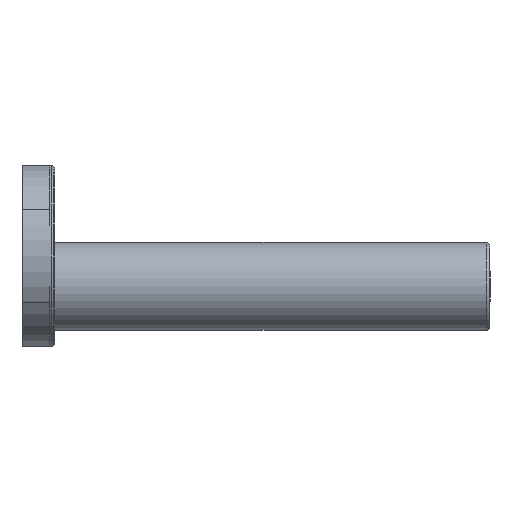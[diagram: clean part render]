
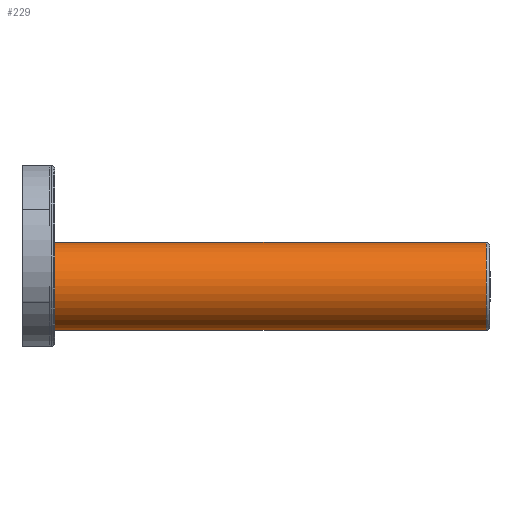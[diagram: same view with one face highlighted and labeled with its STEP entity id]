
A CAD part, left-side view. The second image highlights one B-rep face of the part: STEP entity #229.
In plain terms, the highlighted cylindrical face has radius 12.4 mm (diameter 24.8 mm), a full revolution.
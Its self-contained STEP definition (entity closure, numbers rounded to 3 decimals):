
#97=B_SPLINE_CURVE_WITH_KNOTS('',3,(#4149,#4150,#4151,#4152,#4153,#4154,
#4155,#4156,#4157,#4158,#4159,#4160,#4161,#4162,#4163,#4164,#4165,#4166),
.UNSPECIFIED.,.T.,.F.,(2,2,2,2,2,2,2,2,2,2,2),(-0.125,0.,0.125,0.25,0.375,
0.5,0.625,0.75,0.875,1.,1.125),.UNSPECIFIED.);
#98=B_SPLINE_CURVE_WITH_KNOTS('',3,(#4170,#4171,#4172,#4173,#4174,#4175,
#4176,#4177,#4178,#4179,#4180,#4181,#4182,#4183,#4184,#4185,#4186,#4187,
#4188,#4189,#4190,#4191,#4192,#4193,#4194,#4195),.UNSPECIFIED.,.T.,.F.,(2,
2,2,2,2,2,2,2,2,2,2,2,2,2,2),(-0.063,0.,0.125,0.188,0.25,0.375,
0.438,0.5,0.563,0.625,0.75,0.875,0.938,1.,1.125),.UNSPECIFIED.);
#134=CYLINDRICAL_SURFACE('',#2897,12.4);
#229=ADVANCED_FACE('',(#479,#480,#481,#482),#134,.T.);
#479=FACE_BOUND('',#1157,.T.);
#480=FACE_BOUND('',#1158,.T.);
#481=FACE_BOUND('',#1159,.T.);
#482=FACE_BOUND('',#1160,.T.);
#1157=EDGE_LOOP('',(#1409));
#1158=EDGE_LOOP('',(#1410));
#1159=EDGE_LOOP('',(#1411));
#1160=EDGE_LOOP('',(#1412));
#1409=ORIENTED_EDGE('',*,*,#2360,.T.);
#1410=ORIENTED_EDGE('',*,*,#2361,.F.);
#1411=ORIENTED_EDGE('',*,*,#2362,.F.);
#1412=ORIENTED_EDGE('',*,*,#2363,.F.);
#2094=VERTEX_POINT('',#4148);
#2095=VERTEX_POINT('',#4167);
#2096=VERTEX_POINT('',#4169);
#2097=VERTEX_POINT('',#4196);
#2360=EDGE_CURVE('',#2094,#2094,#2712,.T.);
#2361=EDGE_CURVE('',#2095,#2095,#97,.T.);
#2362=EDGE_CURVE('',#2096,#2096,#2713,.T.);
#2363=EDGE_CURVE('',#2097,#2097,#98,.T.);
#2712=CIRCLE('',#2895,12.4);
#2713=CIRCLE('',#2896,12.4);
#2895=AXIS2_PLACEMENT_3D('',#4147,#3288,#3289);
#2896=AXIS2_PLACEMENT_3D('',#4168,#3290,#3291);
#2897=AXIS2_PLACEMENT_3D('',#4197,#3292,#3293);
#3288=DIRECTION('',(0.,1.,0.));
#3289=DIRECTION('',(0.,0.,1.));
#3290=DIRECTION('',(0.,1.,0.));
#3291=DIRECTION('',(0.,0.,1.));
#3292=DIRECTION('',(0.,-1.,0.));
#3293=DIRECTION('',(0.,0.,-1.));
#4147=CARTESIAN_POINT('',(39.5,-91.7,-108.5));
#4148=CARTESIAN_POINT('',(39.5,-91.7,-96.1));
#4149=CARTESIAN_POINT('',(49.735,-11.806,-101.5));
#4150=CARTESIAN_POINT('',(49.735,-15.594,-101.5));
#4151=CARTESIAN_POINT('',(50.315,-17.375,-102.281));
#4152=CARTESIAN_POINT('',(51.414,-19.904,-104.8));
#4153=CARTESIAN_POINT('',(51.897,-20.694,-106.602));
#4154=CARTESIAN_POINT('',(51.903,-20.706,-110.356));
#4155=CARTESIAN_POINT('',(51.421,-19.916,-112.182));
#4156=CARTESIAN_POINT('',(50.321,-17.392,-114.709));
#4157=CARTESIAN_POINT('',(49.739,-15.609,-115.494));
#4158=CARTESIAN_POINT('',(49.731,-11.836,-115.506));
#4159=CARTESIAN_POINT('',(50.312,-10.034,-114.726));
#4160=CARTESIAN_POINT('',(51.413,-7.498,-112.205));
#4161=CARTESIAN_POINT('',(51.897,-6.705,-110.403));
#4162=CARTESIAN_POINT('',(51.903,-6.695,-106.637));
#4163=CARTESIAN_POINT('',(51.419,-7.487,-104.812));
#4164=CARTESIAN_POINT('',(50.318,-10.018,-102.284));
#4165=CARTESIAN_POINT('',(49.735,-11.806,-101.5));
#4166=CARTESIAN_POINT('',(49.735,-15.594,-101.5));
#4167=CARTESIAN_POINT('',(49.735,-13.7,-101.5));
#4168=CARTESIAN_POINT('',(39.5,30.3,-108.5));
#4169=CARTESIAN_POINT('',(39.5,30.3,-96.1));
#4170=CARTESIAN_POINT('',(48.03,-77.456,-99.5));
#4171=CARTESIAN_POINT('',(48.03,-81.188,-99.5));
#4172=CARTESIAN_POINT('',(49.16,-83.415,-100.507));
#4173=CARTESIAN_POINT('',(50.598,-85.83,-102.892));
#4174=CARTESIAN_POINT('',(51.047,-86.491,-103.841));
#4175=CARTESIAN_POINT('',(51.7,-87.429,-106.011));
#4176=CARTESIAN_POINT('',(51.897,-87.696,-107.241));
#4177=CARTESIAN_POINT('',(51.906,-87.708,-110.934));
#4178=CARTESIAN_POINT('',(51.098,-86.665,-113.271));
#4179=CARTESIAN_POINT('',(49.651,-84.24,-115.683));
#4180=CARTESIAN_POINT('',(49.142,-83.303,-116.321));
#4181=CARTESIAN_POINT('',(48.324,-81.165,-117.233));
#4182=CARTESIAN_POINT('',(48.033,-79.956,-117.497));
#4183=CARTESIAN_POINT('',(48.026,-77.492,-117.503));
#4184=CARTESIAN_POINT('',(48.315,-76.267,-117.242));
#4185=CARTESIAN_POINT('',(49.125,-74.134,-116.342));
#4186=CARTESIAN_POINT('',(49.638,-73.183,-115.7));
#4187=CARTESIAN_POINT('',(51.074,-70.772,-113.321));
#4188=CARTESIAN_POINT('',(51.895,-69.708,-111.013));
#4189=CARTESIAN_POINT('',(51.905,-69.693,-106.042));
#4190=CARTESIAN_POINT('',(51.093,-70.743,-103.719));
#4191=CARTESIAN_POINT('',(49.649,-73.162,-101.315));
#4192=CARTESIAN_POINT('',(49.142,-74.096,-100.679));
#4193=CARTESIAN_POINT('',(48.32,-76.248,-99.762));
#4194=CARTESIAN_POINT('',(48.03,-77.456,-99.5));
#4195=CARTESIAN_POINT('',(48.03,-81.188,-99.5));
#4196=CARTESIAN_POINT('',(48.03,-78.7,-99.5));
#4197=CARTESIAN_POINT('',(39.5,30.3,-108.5));
